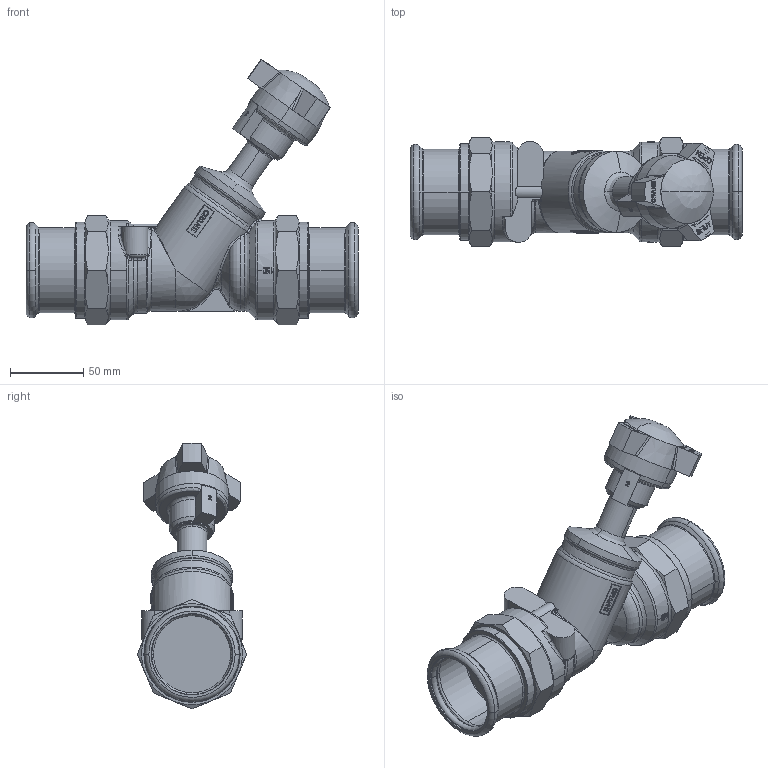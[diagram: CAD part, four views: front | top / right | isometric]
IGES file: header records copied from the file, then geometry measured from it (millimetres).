
Global section: file name: No Iges File Name specified; native system: AutoDesk Inventor R12.0; preprocessor: AutoDesk Inventor Iges Exporter R12.0; date: 20110824.093847; units: millimetre
Bounding box: 227 x 74.69 x 181.67 mm (x, y, z)
Volume: 633034.4 mm3; surface area: 104630.4 mm2
Topology: 1 solids, 3 shells, 1309 faces, 3669 edges, 2411 vertices
Faces by surface type: bspline 810, plane 320, cylinder 63, cone 58, revolution 30, torus 26, sphere 2
